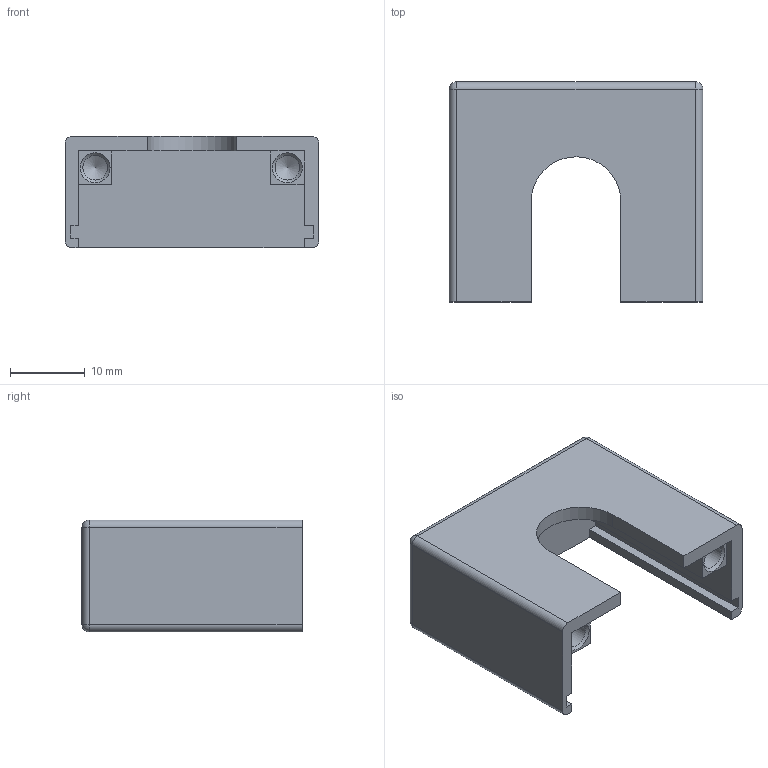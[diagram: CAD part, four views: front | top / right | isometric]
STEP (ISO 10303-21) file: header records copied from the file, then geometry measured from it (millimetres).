
FILE_DESCRIPTION(('STEP AP242 Edition 2','STEP AP242 Edition 2''CAx-IF Rec.Pracs.---Representation and Presentation of Product Manufacturing Information (PMI)---4.0---2014-10-13','STEP AP242 Edition 2''CAx-IF Rec.Pracs.---Representation and Presentation of Product Manufacturing Information (PMI)---4.0---2014-10-13''CAx-IF Rec.Pracs.---3D Tessellated Geometry---0.4---2014-09-14','STEP AP242 Edition 2''CAx-IF Rec.Pracs.---Representation and Presentation of Product Manufacturing Information (PMI)---4.0---2014-10-13''CAx-IF Rec.Pracs.---3D Tessellated Geometry---0.4---2014-09-14''2;1','STEP AP242 Edition 2''CAx-IF Rec.Pracs.---Representation and Presentation of Product Manufacturing Information (PMI)---4.0---2014-10-13''CAx-IF Rec.Pracs.---3D Tessellated Geometry---0.4---2014-09-14''2;1''CAx-IF Rec.Pracs.---User Defined Attributes---1.5---2016-08-15'),'2;1');
FILE_NAME('/vol/tmp/translate-13651982295911169668/SCD41_box1 - Cap.step','2026-04-25T00:05:20',(''),(''),'ST-DEVELOPER v20','ONSHAPE BY PTC INC, 1.214',' ');
FILE_SCHEMA(('AP242_MANAGED_MODEL_BASED_3D_ENGINEERING_MIM_LF { 1 0 10303 442 3 1 4 }'));
Length unit declared in the file: metre
Products named in the file (1): Cap
Bounding box: 34 x 29.5 x 15 mm (x, y, z)
Volume: 4800.5 mm3; surface area: 4374.7 mm2
Topology: 1 solids, 1 shells, 46 faces, 122 edges, 74 vertices
Faces by surface type: plane 27, cylinder 11, sphere 4, cone 4
Full cylindrical faces by diameter (mm): 3.3 x2
Entity records: 1420 total; most frequent: DIRECTION 232, CARTESIAN_POINT 230, ORIENTED_EDGE 216, EDGE_CURVE 108, LINE 84, VECTOR 84, AXIS2_PLACEMENT_3D 74, VERTEX_POINT 72
